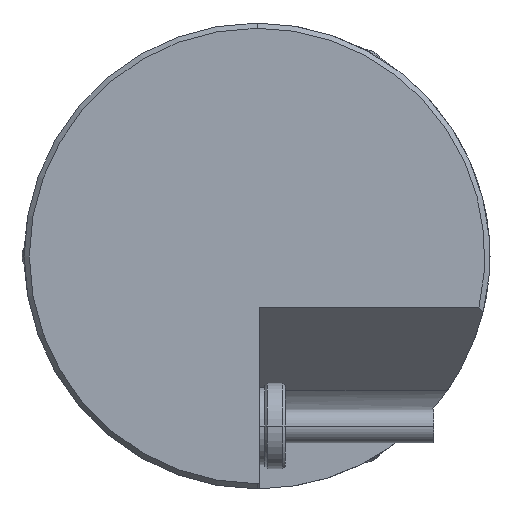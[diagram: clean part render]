
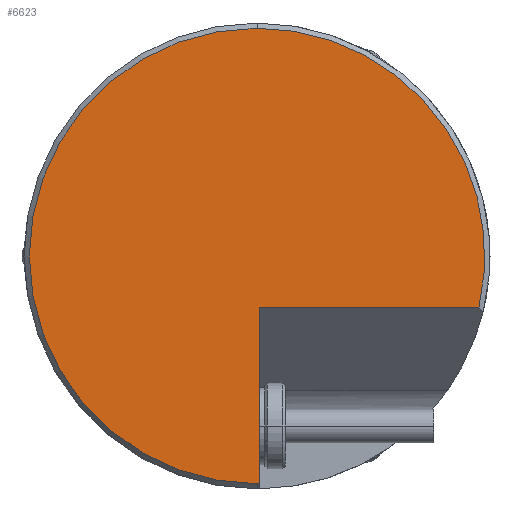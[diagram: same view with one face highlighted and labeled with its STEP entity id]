
A CAD part, left-side view. The second image highlights one B-rep face of the part: STEP entity #6623.
In plain terms, the highlighted planar face has unit normal (-1, 0, 0).
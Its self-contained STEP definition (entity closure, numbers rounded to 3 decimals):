
#102 = CARTESIAN_POINT ( 'NONE',  ( -7.586, 24.713, 28.972 ) ) ;
#334 = CARTESIAN_POINT ( 'NONE',  ( -7.586, 24.713, 28.972 ) ) ;
#583 = CARTESIAN_POINT ( 'NONE',  ( -7.586, 24.213, 18.972 ) ) ;
#754 = DIRECTION ( 'NONE',  ( 0., 0., -1. ) ) ;
#989 = DIRECTION ( 'NONE',  ( 0., 0., -1. ) ) ;
#1053 = DIRECTION ( 'NONE',  ( 0., -1., 0. ) ) ;
#1368 = DIRECTION ( 'NONE',  ( -1., 0., 0. ) ) ;
#1375 = DIRECTION ( 'NONE',  ( -1., 0., 0. ) ) ;
#1518 = VECTOR ( 'NONE', #5857, 1000. ) ;
#1810 = ORIENTED_EDGE ( 'NONE', *, *, #5615, .T. ) ;
#1835 = EDGE_LOOP ( 'NONE', ( #3893, #4187, #1810, #2769, #2749 ) ) ;
#2584 = PLANE ( 'NONE',  #3496 ) ;
#2671 = CIRCLE ( 'NONE', #4356, 44.2 ) ;
#2749 = ORIENTED_EDGE ( 'NONE', *, *, #5980, .T. ) ;
#2769 = ORIENTED_EDGE ( 'NONE', *, *, #5628, .T. ) ;
#2853 = CIRCLE ( 'NONE', #4390, 44.2 ) ;
#3163 = FACE_OUTER_BOUND ( 'NONE', #1835, .T. ) ;
#3317 = LINE ( 'NONE', #7476, #1518 ) ;
#3380 = VERTEX_POINT ( 'NONE', #4640 ) ;
#3382 = CARTESIAN_POINT ( 'NONE',  ( -7.586, 24.213, -15.226 ) ) ;
#3406 = CARTESIAN_POINT ( 'NONE',  ( -7.586, -18.341, 18.972 ) ) ;
#3496 = AXIS2_PLACEMENT_3D ( 'NONE', #4999, #1368, #5592 ) ;
#3754 = CARTESIAN_POINT ( 'NONE',  ( -7.586, 24.713, -15.228 ) ) ;
#3801 = VERTEX_POINT ( 'NONE', #3803 ) ;
#3803 = CARTESIAN_POINT ( 'NONE',  ( -7.586, 24.713, 73.172 ) ) ;
#3893 = ORIENTED_EDGE ( 'NONE', *, *, #5414, .T. ) ;
#3976 = VERTEX_POINT ( 'NONE', #3754 ) ;
#4005 = VERTEX_POINT ( 'NONE', #3382 ) ;
#4017 = CIRCLE ( 'NONE', #4396, 44.2 ) ;
#4021 = VERTEX_POINT ( 'NONE', #3406 ) ;
#4187 = ORIENTED_EDGE ( 'NONE', *, *, #5759, .T. ) ;
#4213 = VECTOR ( 'NONE', #1053, 1000. ) ;
#4356 = AXIS2_PLACEMENT_3D ( 'NONE', #334, #4654, #989 ) ;
#4390 = AXIS2_PLACEMENT_3D ( 'NONE', #102, #4432, #754 ) ;
#4396 = AXIS2_PLACEMENT_3D ( 'NONE', #5003, #1375, #5598 ) ;
#4432 = DIRECTION ( 'NONE',  ( -1., 0., 0. ) ) ;
#4640 = CARTESIAN_POINT ( 'NONE',  ( -7.586, 24.213, 18.972 ) ) ;
#4654 = DIRECTION ( 'NONE',  ( -1., 0., 0. ) ) ;
#4999 = CARTESIAN_POINT ( 'NONE',  ( -7.586, 24.713, 28.972 ) ) ;
#5003 = CARTESIAN_POINT ( 'NONE',  ( -7.586, 24.713, 28.972 ) ) ;
#5414 = EDGE_CURVE ( 'NONE', #3380, #4021, #6343, .T. ) ;
#5592 = DIRECTION ( 'NONE',  ( 0., 0., -1. ) ) ;
#5598 = DIRECTION ( 'NONE',  ( 0., 0., -1. ) ) ;
#5615 = EDGE_CURVE ( 'NONE', #3801, #3976, #4017, .T. ) ;
#5628 = EDGE_CURVE ( 'NONE', #3976, #4005, #2853, .T. ) ;
#5759 = EDGE_CURVE ( 'NONE', #4021, #3801, #2671, .T. ) ;
#5857 = DIRECTION ( 'NONE',  ( 0., 0., 1. ) ) ;
#5980 = EDGE_CURVE ( 'NONE', #4005, #3380, #3317, .T. ) ;
#6343 = LINE ( 'NONE', #583, #4213 ) ;
#6623 = ADVANCED_FACE ( 'NONE', ( #3163 ), #2584, .T. ) ;
#7476 = CARTESIAN_POINT ( 'NONE',  ( -7.586, 24.213, 28.972 ) ) ;
